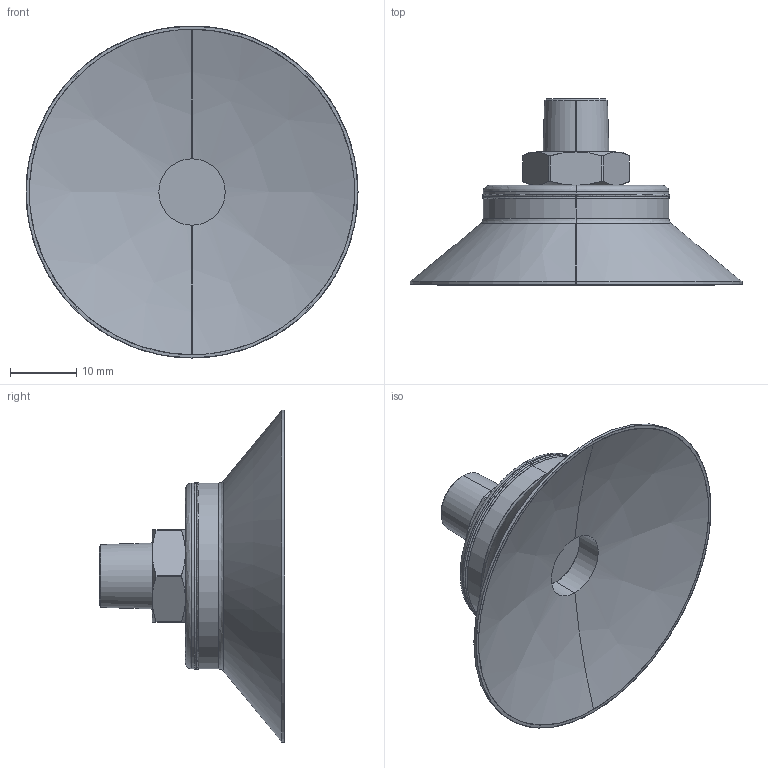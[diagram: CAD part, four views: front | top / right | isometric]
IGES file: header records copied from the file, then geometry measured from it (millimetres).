
Start section: SolidWorks IGES file using analytic representation for surfaces
Global section: file name: E:\eins\20070625石神\シュマルツ\SQNシリーズ\183837.IGS; native system: SolidWorks 2006 by SolidWorks Corporation; preprocessor: SolidWorks 2006 by SolidWorks Corporation; author: CAD54; date: 070625.165708; units: millimetre
Bounding box: 50 x 28 x 50 mm (x, y, z)
Surface area: 5615.3 mm2 (no closed solid volume)
Topology: 0 solids, 0 shells, 58 faces, 756 edges, 756 vertices
Faces by surface type: revolution 36, bspline 22
